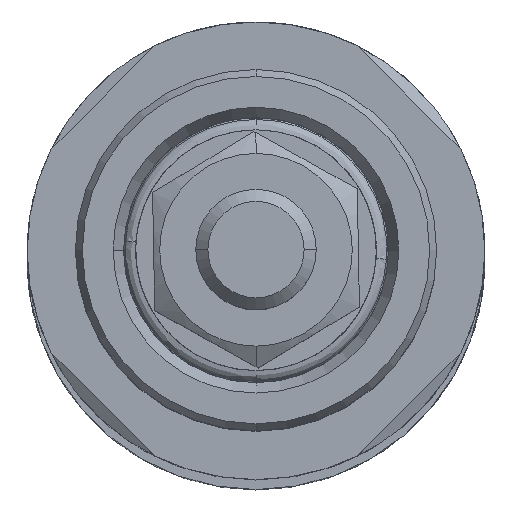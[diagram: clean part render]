
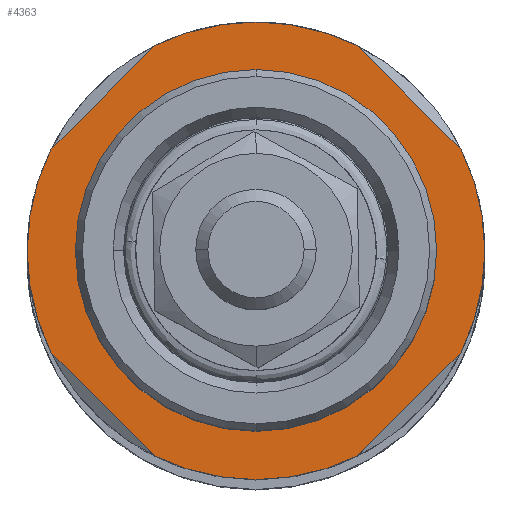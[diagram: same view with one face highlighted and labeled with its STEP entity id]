
A CAD part, top view. The second image highlights one B-rep face of the part: STEP entity #4363.
In plain terms, the highlighted planar face has unit normal (0, 0, 1).
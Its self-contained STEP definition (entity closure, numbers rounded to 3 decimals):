
#101 = CARTESIAN_POINT ( 'NONE',  ( 0., -15., 0. ) ) ;
#104 = VERTEX_POINT ( 'NONE', #101 ) ;
#107 = CARTESIAN_POINT ( 'NONE',  ( -8.427, 17.029, 0. ) ) ;
#187 = EDGE_CURVE ( 'NONE', #1249, #5526, #2765, .T. ) ;
#217 = LINE ( 'NONE', #5909, #1553 ) ;
#232 = DIRECTION ( 'NONE',  ( 0., 0., -1. ) ) ;
#247 = ORIENTED_EDGE ( 'NONE', *, *, #3629, .T. ) ;
#292 = CIRCLE ( 'NONE', #4867, 19. ) ;
#295 = ORIENTED_EDGE ( 'NONE', *, *, #947, .T. ) ;
#396 = DIRECTION ( 'NONE',  ( 1., 0., 0. ) ) ;
#518 = CARTESIAN_POINT ( 'NONE',  ( -17.029, -8.427, 0. ) ) ;
#557 = CIRCLE ( 'NONE', #5903, 19. ) ;
#656 = AXIS2_PLACEMENT_3D ( 'NONE', #1986, #3124, #871 ) ;
#690 = CARTESIAN_POINT ( 'NONE',  ( -8.427, -17.029, 0. ) ) ;
#810 = DIRECTION ( 'NONE',  ( -0.707, -0.707, 0. ) ) ;
#871 = DIRECTION ( 'NONE',  ( 1., 0., 0. ) ) ;
#878 = CARTESIAN_POINT ( 'NONE',  ( -17.029, 8.427, 0. ) ) ;
#885 = CARTESIAN_POINT ( 'NONE',  ( 0., 0., 0. ) ) ;
#946 = AXIS2_PLACEMENT_3D ( 'NONE', #1026, #1052, #396 ) ;
#947 = EDGE_CURVE ( 'NONE', #1602, #104, #4934, .T. ) ;
#1026 = CARTESIAN_POINT ( 'NONE',  ( 0., 0., 0. ) ) ;
#1052 = DIRECTION ( 'NONE',  ( 0., 0., 1. ) ) ;
#1149 = DIRECTION ( 'NONE',  ( 0., 0., -1. ) ) ;
#1249 = VERTEX_POINT ( 'NONE', #107 ) ;
#1361 = CARTESIAN_POINT ( 'NONE',  ( 0., 0., 0. ) ) ;
#1383 = EDGE_CURVE ( 'NONE', #1249, #2563, #2098, .T. ) ;
#1543 = VECTOR ( 'NONE', #4732, 1000. ) ;
#1549 = ORIENTED_EDGE ( 'NONE', *, *, #1383, .F. ) ;
#1553 = VECTOR ( 'NONE', #4768, 1000. ) ;
#1602 = VERTEX_POINT ( 'NONE', #5836 ) ;
#1717 = VECTOR ( 'NONE', #6001, 1000. ) ;
#1722 = CARTESIAN_POINT ( 'NONE',  ( 0., 0., 0. ) ) ;
#1783 = CIRCLE ( 'NONE', #656, 19. ) ;
#1800 = ORIENTED_EDGE ( 'NONE', *, *, #5236, .T. ) ;
#1866 = AXIS2_PLACEMENT_3D ( 'NONE', #1921, #5973, #3717 ) ;
#1921 = CARTESIAN_POINT ( 'NONE',  ( 0., 0., 0. ) ) ;
#1942 = FACE_BOUND ( 'NONE', #5257, .T. ) ;
#1986 = CARTESIAN_POINT ( 'NONE',  ( 0., 0., 0. ) ) ;
#2012 = EDGE_CURVE ( 'NONE', #3684, #5326, #3772, .T. ) ;
#2098 = CIRCLE ( 'NONE', #6881, 19. ) ;
#2107 = CARTESIAN_POINT ( 'NONE',  ( -19., 0., 0. ) ) ;
#2127 = ORIENTED_EDGE ( 'NONE', *, *, #2621, .T. ) ;
#2443 = CARTESIAN_POINT ( 'NONE',  ( 8.427, 17.029, 0. ) ) ;
#2465 = CARTESIAN_POINT ( 'NONE',  ( 8.427, -17.029, 0. ) ) ;
#2563 = VERTEX_POINT ( 'NONE', #2443 ) ;
#2621 = EDGE_CURVE ( 'NONE', #6948, #5326, #6608, .T. ) ;
#2765 = LINE ( 'NONE', #4288, #3677 ) ;
#2787 = EDGE_CURVE ( 'NONE', #3055, #4666, #557, .T. ) ;
#2818 = LINE ( 'NONE', #2977, #1543 ) ;
#2854 = DIRECTION ( 'NONE',  ( 1., 0., 0. ) ) ;
#2962 = ORIENTED_EDGE ( 'NONE', *, *, #5923, .T. ) ;
#2971 = ORIENTED_EDGE ( 'NONE', *, *, #3746, .F. ) ;
#2977 = CARTESIAN_POINT ( 'NONE',  ( 8.427, -17.029, 0. ) ) ;
#3055 = VERTEX_POINT ( 'NONE', #6623 ) ;
#3124 = DIRECTION ( 'NONE',  ( 0., 0., -1. ) ) ;
#3301 = EDGE_CURVE ( 'NONE', #5040, #5526, #292, .T. ) ;
#3355 = EDGE_LOOP ( 'NONE', ( #2127, #6025, #2962, #5287, #2971, #1800, #1549, #4900, #4021, #4412 ) ) ;
#3386 = DIRECTION ( 'NONE',  ( 1., 0., 0. ) ) ;
#3629 = EDGE_CURVE ( 'NONE', #104, #1602, #6657, .T. ) ;
#3677 = VECTOR ( 'NONE', #810, 1000. ) ;
#3684 = VERTEX_POINT ( 'NONE', #2465 ) ;
#3709 = DIRECTION ( 'NONE',  ( 1., 0., 0. ) ) ;
#3717 = DIRECTION ( 'NONE',  ( 1., 0., 0. ) ) ;
#3746 = EDGE_CURVE ( 'NONE', #5294, #3055, #1783, .T. ) ;
#3772 = CIRCLE ( 'NONE', #1866, 19. ) ;
#3888 = PLANE ( 'NONE',  #946 ) ;
#4021 = ORIENTED_EDGE ( 'NONE', *, *, #3301, .F. ) ;
#4267 = AXIS2_PLACEMENT_3D ( 'NONE', #1361, #232, #3709 ) ;
#4288 = CARTESIAN_POINT ( 'NONE',  ( -8.427, 17.029, 0. ) ) ;
#4363 = ADVANCED_FACE ( 'NONE', ( #7168, #1942 ), #3888, .T. ) ;
#4412 = ORIENTED_EDGE ( 'NONE', *, *, #7228, .F. ) ;
#4488 = CARTESIAN_POINT ( 'NONE',  ( 17.029, -8.427, 0. ) ) ;
#4524 = AXIS2_PLACEMENT_3D ( 'NONE', #5419, #5398, #6546 ) ;
#4666 = VERTEX_POINT ( 'NONE', #4488 ) ;
#4732 = DIRECTION ( 'NONE',  ( 0.707, 0.707, 0. ) ) ;
#4768 = DIRECTION ( 'NONE',  ( -0.707, 0.707, 0. ) ) ;
#4867 = AXIS2_PLACEMENT_3D ( 'NONE', #1722, #6945, #2854 ) ;
#4900 = ORIENTED_EDGE ( 'NONE', *, *, #187, .T. ) ;
#4903 = CARTESIAN_POINT ( 'NONE',  ( 0., 0., 0. ) ) ;
#4907 = CARTESIAN_POINT ( 'NONE',  ( -17.029, -8.427, 0. ) ) ;
#4929 = AXIS2_PLACEMENT_3D ( 'NONE', #4903, #5485, #7262 ) ;
#4934 = CIRCLE ( 'NONE', #4929, 15. ) ;
#4964 = DIRECTION ( 'NONE',  ( 1., 0., 0. ) ) ;
#4992 = DIRECTION ( 'NONE',  ( 0., 0., -1. ) ) ;
#5040 = VERTEX_POINT ( 'NONE', #2107 ) ;
#5130 = CARTESIAN_POINT ( 'NONE',  ( 0., 0., 0. ) ) ;
#5236 = EDGE_CURVE ( 'NONE', #5294, #2563, #217, .T. ) ;
#5257 = EDGE_LOOP ( 'NONE', ( #295, #247 ) ) ;
#5287 = ORIENTED_EDGE ( 'NONE', *, *, #2787, .F. ) ;
#5294 = VERTEX_POINT ( 'NONE', #6488 ) ;
#5326 = VERTEX_POINT ( 'NONE', #690 ) ;
#5398 = DIRECTION ( 'NONE',  ( 0., 0., -1. ) ) ;
#5419 = CARTESIAN_POINT ( 'NONE',  ( 0., 0., 0. ) ) ;
#5485 = DIRECTION ( 'NONE',  ( 0., 0., -1. ) ) ;
#5526 = VERTEX_POINT ( 'NONE', #878 ) ;
#5836 = CARTESIAN_POINT ( 'NONE',  ( 0., 15., 0. ) ) ;
#5903 = AXIS2_PLACEMENT_3D ( 'NONE', #5130, #1149, #3386 ) ;
#5909 = CARTESIAN_POINT ( 'NONE',  ( 17.029, 8.427, 0. ) ) ;
#5923 = EDGE_CURVE ( 'NONE', #3684, #4666, #2818, .T. ) ;
#5973 = DIRECTION ( 'NONE',  ( 0., 0., -1. ) ) ;
#6001 = DIRECTION ( 'NONE',  ( 0.707, -0.707, 0. ) ) ;
#6025 = ORIENTED_EDGE ( 'NONE', *, *, #2012, .F. ) ;
#6488 = CARTESIAN_POINT ( 'NONE',  ( 17.029, 8.427, 0. ) ) ;
#6546 = DIRECTION ( 'NONE',  ( 0., 1., 0. ) ) ;
#6608 = LINE ( 'NONE', #4907, #1717 ) ;
#6623 = CARTESIAN_POINT ( 'NONE',  ( 19., 0., 0. ) ) ;
#6657 = CIRCLE ( 'NONE', #4524, 15. ) ;
#6881 = AXIS2_PLACEMENT_3D ( 'NONE', #885, #4992, #4964 ) ;
#6945 = DIRECTION ( 'NONE',  ( 0., 0., -1. ) ) ;
#6948 = VERTEX_POINT ( 'NONE', #518 ) ;
#7165 = CIRCLE ( 'NONE', #4267, 19. ) ;
#7168 = FACE_OUTER_BOUND ( 'NONE', #3355, .T. ) ;
#7228 = EDGE_CURVE ( 'NONE', #6948, #5040, #7165, .T. ) ;
#7262 = DIRECTION ( 'NONE',  ( 0., 1., 0. ) ) ;
